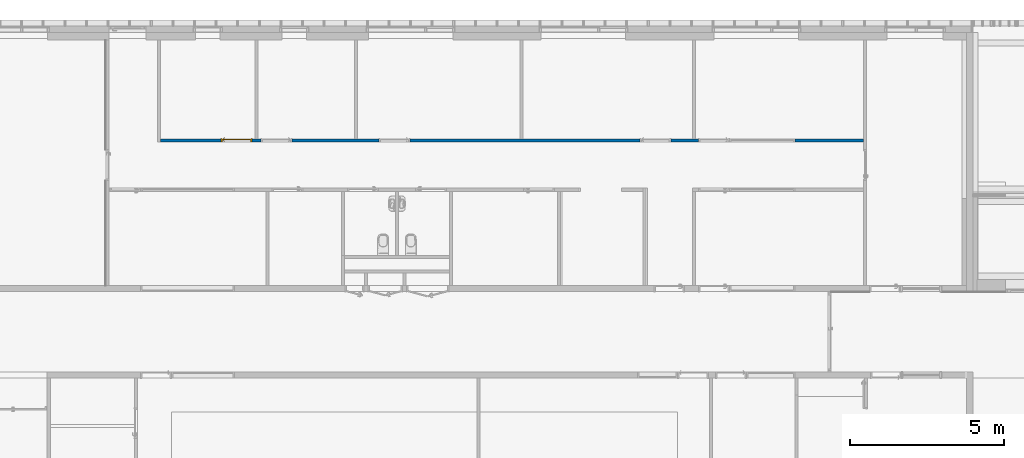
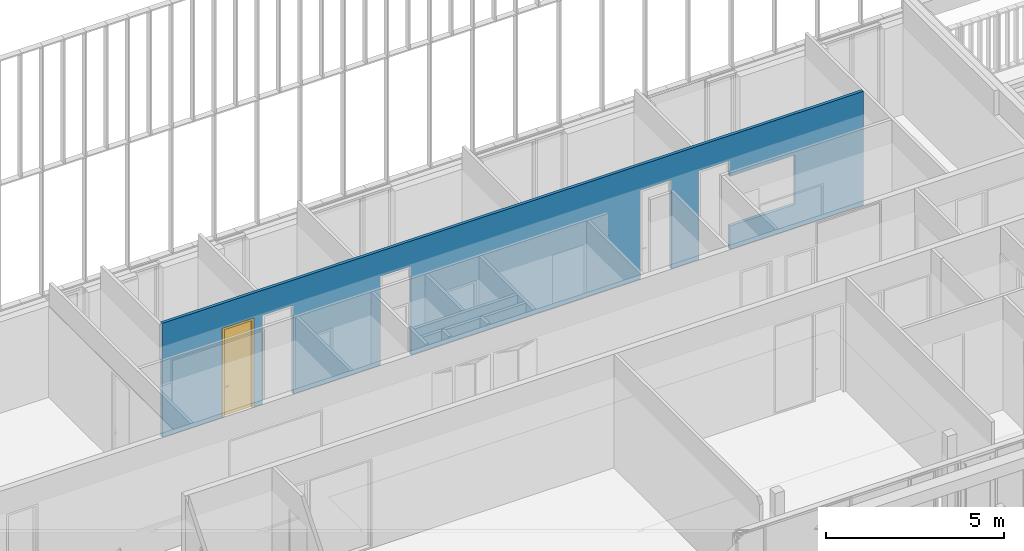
# One storey, part 152 of 240: 1 door, 1 wall, 6 openings.
"""IFC2X3 building model written with IfcOpenShell, lengths in centimetres."""

from ifc_helpers import new_model, entity, si_unit, converted_unit, derived_unit, direction, frame, frame_2d, origin, place, context, subcontext, project, spatial, polyline, rectangle, extrude, clip, bounded_halfspace, faceted_brep, source, transform, mapped, material, material_list, layer, layer_set, layer_usage, type_object, type_shapes, element, fill, save


model = new_model("IFC2X3")

# Units and contexts
model_context = context("Model", 3, precision=0.001, world=origin(), true_north=direction((6.12303176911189e-17, 1.0)))
body_context = subcontext(model_context, "Body", "Model", "MODEL_VIEW")
ifc_project = project(units=[si_unit("LENGTHUNIT", "METRE", prefix="CENTI"), si_unit("AREAUNIT", "SQUARE_METRE"), si_unit("VOLUMEUNIT", "CUBIC_METRE"), converted_unit("PLANEANGLEUNIT", "DEGREE", entity("IfcRatioMeasure", 0.0174532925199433), si_unit("PLANEANGLEUNIT", "RADIAN"), dimensions=[0, 0, 0, 0, 0, 0, 0]), si_unit("MASSUNIT", "GRAM", prefix="KILO"), derived_unit("MASSDENSITYUNIT", [(si_unit("MASSUNIT", "GRAM", prefix="KILO"), 1), (si_unit("LENGTHUNIT", "METRE"), -3)]), si_unit("TIMEUNIT", "SECOND"), si_unit("FREQUENCYUNIT", "HERTZ"), si_unit("THERMODYNAMICTEMPERATUREUNIT", "DEGREE_CELSIUS"), derived_unit("THERMALTRANSMITTANCEUNIT", [(si_unit("MASSUNIT", "GRAM", prefix="KILO"), 1), (si_unit("THERMODYNAMICTEMPERATUREUNIT", "KELVIN"), -1), (si_unit("TIMEUNIT", "SECOND"), -3)]), derived_unit("VOLUMETRICFLOWRATEUNIT", [(si_unit("LENGTHUNIT", "METRE"), 3), (si_unit("TIMEUNIT", "SECOND"), -1)]), si_unit("ELECTRICCURRENTUNIT", "AMPERE"), si_unit("ELECTRICVOLTAGEUNIT", "VOLT"), si_unit("POWERUNIT", "WATT"), si_unit("FORCEUNIT", "NEWTON", prefix="KILO"), si_unit("ILLUMINANCEUNIT", "LUX"), si_unit("LUMINOUSFLUXUNIT", "LUMEN"), si_unit("LUMINOUSINTENSITYUNIT", "CANDELA"), derived_unit("USERDEFINED", [(si_unit("MASSUNIT", "GRAM", prefix="KILO"), -1), (si_unit("LENGTHUNIT", "METRE"), -2), (si_unit("TIMEUNIT", "SECOND"), 3), (si_unit("LUMINOUSFLUXUNIT", "LUMEN"), 1)]), derived_unit("LINEARVELOCITYUNIT", [(si_unit("LENGTHUNIT", "METRE"), 1), (si_unit("TIMEUNIT", "SECOND"), -1)]), si_unit("PRESSUREUNIT", "PASCAL"), derived_unit("USERDEFINED", [(si_unit("LENGTHUNIT", "METRE"), -2), (si_unit("MASSUNIT", "GRAM", prefix="KILO"), 1), (si_unit("TIMEUNIT", "SECOND"), -2)])], contexts=[model_context])

# Site, building, storey
site_placement = place(None, frame((-2781.94577612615, 7442.24238424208, 0.0)))
site = spatial("IfcSite", under=ifc_project, at=site_placement, Name="Default", CompositionType="ELEMENT")
building_placement = place(site_placement, origin())
building = spatial("IfcBuilding", under=site, at=building_placement, CompositionType="ELEMENT")
storey_placement = place(building_placement, origin())
storey = spatial("IfcBuildingStorey", under=building, at=storey_placement, Name="N00 - COO", CompositionType="ELEMENT", Elevation=0.0)

# Wall, openings, door
ifc_material_1 = material(Name="01 - Enduit/Plâtre")
ifc_layer_1 = layer(ifc_material_1, 1.3)
ifc_material_2 = material(Name="00 - Isolant")
ifc_layer_2 = layer(ifc_material_2, 7.4)
ifc_layer_3 = layer(ifc_material_1, 1.3)
ifc_layer_set = layer_set([ifc_layer_1, ifc_layer_2, ifc_layer_3], Name="Mur de base:06 - cloisons - Ba13 10cm")
ifc_layer_usage = layer_usage(ifc_layer_set, "AXIS2", "NEGATIVE", 5.0)
wall_type = type_object("IfcWallType", Name="Mur de base:06 - cloisons - Ba13 10cm", PredefinedType="STANDARD", material=ifc_layer_set)
wall_placement = place(building_placement, frame((-5122.49987760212, -340.0, 0.0), z_axis=(0.0, 0.0, 1.0), x_axis=(-1.0, 0.0, 0.0)))
wall = element("IfcWallStandardCase", 1, at=wall_placement, inside=storey, type_object=wall_type, material=ifc_layer_usage, Name="Mur de base:06 - cloisons - Ba13 10cm", ObjectType="Mur de base:06 - cloisons - Ba13 10cm", context=body_context, shape_type="Clipping", body=[
    clip(extrude(rectangle(XDim=2276.75, YDim=10.0, at=frame_2d((1138.375, -3.5527136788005e-15), x_axis=(-1.0, 0.0))), origin(), (0.0, 0.0, 1.0), 391.0), bounded_halfspace(frame((0.0, -5.0, 391.0), z_axis=(0.0, 0.0, -1.0), x_axis=(0.0, -1.0, 0.0)), True, frame((0.0, -5.0, 391.0)), polyline([(0.0, 0.0), (544.0, 0.0), (554.0, 0.0), (1103.0, 0.0), (1113.0, 0.0), (1639.0, 0.0), (1649.0, 0.0), (1961.0, 0.0), (1971.0, 0.0), (2276.75, 0.0), (2276.75, 10.0), (0.0, 10.0), (0.0, 0.0)]))),
])
opening_1_placement = place(wall_placement, frame((2081.0, 5.0, 0.0)))
opening_1 = element("IfcOpeningElement", 2, at=opening_1_placement, cuts=wall, Name="Int. Simple:PV (0.93m x 3.00m):1", ObjectType="Opening", context=body_context, shape_type="SweptSolid", body=[
    extrude(rectangle(XDim=304.500000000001, YDim=99.9999999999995, at=frame_2d((152.250000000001, 49.9999999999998), x_axis=(1.0, 0.0))), frame((0.0, 0.0, 0.0), z_axis=(0.0, -1.0, 0.0), x_axis=(0.0, 0.0, 1.0)), (0.0, 0.0, 1.0), 10.0),
])
opening_2_placement = place(wall_placement, frame((1951.0, 5.0, 0.0)))
element("IfcOpeningElement", 3, at=opening_2_placement, cuts=wall, Name="Int. Simple:PV (0.93m x 3.00m):1", ObjectType="Opening", context=body_context, shape_type="SweptSolid", body=[
    extrude(rectangle(XDim=304.500000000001, YDim=99.9999999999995, at=frame_2d((152.250000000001, 50.0), x_axis=(1.0, 0.0))), frame((0.0, 0.0, 0.0), z_axis=(0.0, -1.0, 0.0), x_axis=(0.0, 0.0, 1.0)), (0.0, 0.0, 1.0), 10.0),
])
opening_3_placement = place(wall_placement, frame((1569.0, 5.0, 0.0)))
element("IfcOpeningElement", 4, at=opening_3_placement, cuts=wall, Name="Int. Simple:PV (0.93m x 3.00m):1", ObjectType="Opening", context=body_context, shape_type="SweptSolid", body=[
    extrude(rectangle(XDim=304.500000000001, YDim=99.9999999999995, at=frame_2d((152.250000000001, 50.0), x_axis=(1.0, 0.0))), frame((0.0, 0.0, 0.0), z_axis=(0.0, -1.0, 0.0), x_axis=(0.0, 0.0, 1.0)), (0.0, 0.0, 1.0), 10.0),
])
opening_4_placement = place(wall_placement, frame((724.0, 5.0, 0.0)))
element("IfcOpeningElement", 5, at=opening_4_placement, cuts=wall, Name="Int. Simple:PV (0.93m x 3.00m):1", ObjectType="Opening", context=body_context, shape_type="SweptSolid", body=[
    extrude(rectangle(XDim=304.500000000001, YDim=99.9999999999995, at=frame_2d((152.250000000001, 49.9999999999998), x_axis=(1.0, 0.0))), frame((0.0, 0.0, 0.0), z_axis=(0.0, -1.0, 0.0), x_axis=(0.0, 0.0, 1.0)), (0.0, 0.0, 1.0), 10.0),
])
opening_5_placement = place(wall_placement, frame((534.0, 5.0, 0.0)))
element("IfcOpeningElement", 6, at=opening_5_placement, cuts=wall, Name="Int. Simple:PV (0.93m x 3.00m):1", ObjectType="Opening", context=body_context, shape_type="SweptSolid", body=[
    extrude(rectangle(XDim=304.500000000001, YDim=99.9999999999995, at=frame_2d((152.250000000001, 50.0), x_axis=(1.0, 0.0))), frame((0.0, 0.0, 0.0), z_axis=(0.0, -1.0, 0.0), x_axis=(0.0, 0.0, 1.0)), (0.0, 0.0, 1.0), 10.0),
])
opening_6_placement = place(wall_placement, frame((222.0, -5.0, 80.0)))
element("IfcOpeningElement", 7, at=opening_6_placement, cuts=wall, Name="châssis intérieur vitré:châssis intérieur vitré (h=170):1", ObjectType="Opening", context=body_context, shape_type="SweptSolid", body=[
    extrude(rectangle(XDim=170.0, YDim=211.999999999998, at=frame_2d((84.9999999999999, 105.999999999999), x_axis=(1.0, 0.0))), frame((0.0, 0.0, 0.0), z_axis=(0.0, 1.0, 0.0), x_axis=(0.0, 0.0, 1.0)), (0.0, 0.0, 1.0), 10.0),
])
ifc_material_3 = material(Name="Finition Peinture - Blanc satiné")
ifc_material_4 = material(Name="Bois - Panneau de porte")
ifc_material_5 = material(Name="Bois - Cadre de porte")
ifc_material_list_1 = material_list([ifc_material_3, ifc_material_4, ifc_material_5])
ifc_material_list_2 = material_list([ifc_material_3, ifc_material_4, ifc_material_5])
door_style = type_object("IfcDoorStyle", Name="PV (0.93m x 3.00m)", ConstructionType="NOTDEFINED", OperationType="SINGLE_SWING_RIGHT", ParameterTakesPrecedence=False, Sizeable=False, material=ifc_material_list_2)
shared_shape = source(origin(), body_context, "Body", "Brep", [
    faceted_brep([(99.5000000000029, -0.500000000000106, 87.0), (99.5000000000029, -0.500000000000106, 108.0), (98.535276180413, -0.500000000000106, 108.399601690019), (97.5000000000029, -0.500000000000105, 108.535898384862), (96.4647238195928, -0.500000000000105, 108.399601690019), (95.500000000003, -0.500000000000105, 108.0), (95.5000000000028, -0.500000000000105, 87.0), (96.4647238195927, -0.500000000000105, 86.6003983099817), (97.5000000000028, -0.500000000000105, 86.464101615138), (98.5352761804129, -0.500000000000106, 86.6003983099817), (99.5000000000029, 0.0, 108.0), (99.5000000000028, 0.0, 87.0), (98.5352761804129, 0.0, 86.6003983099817), (97.5000000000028, 0.0, 86.464101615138), (96.4647238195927, 0.0, 86.6003983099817), (95.5000000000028, 0.0, 87.0), (95.5000000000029, 0.0, 108.0), (96.4647238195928, 0.0, 108.399601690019), (97.5000000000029, 0.0, 108.535898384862), (98.535276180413, 0.0, 108.399601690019)], [[[0, 1, 2, 3, 4, 5, 6, 7, 8, 9]], [[10, 11, 12, 13, 14, 15, 16, 17, 18, 19]], [[9, 12, 11, 0]], [[8, 13, 12, 9]], [[7, 14, 13, 8]], [[7, 6, 15, 14]], [[15, 6, 5, 16]], [[4, 17, 16, 5]], [[3, 18, 17, 4]], [[2, 19, 18, 3]], [[2, 1, 10, 19]], [[11, 10, 1, 0]]]),
    faceted_brep([(99.5000000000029, 4.0, 87.0), (99.5000000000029, 4.0, 108.0), (98.535276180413, 4.0, 108.399601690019), (97.5000000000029, 4.0, 108.535898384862), (96.4647238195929, 4.0, 108.399601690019), (95.500000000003, 4.0, 108.0), (95.5000000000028, 4.0, 87.0), (96.4647238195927, 4.0, 86.6003983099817), (97.5000000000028, 4.0, 86.464101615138), (98.5352761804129, 4.0, 86.6003983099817), (97.5000000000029, 4.49999999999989, 108.535898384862), (98.535276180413, 4.49999999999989, 108.399601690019), (99.5000000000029, 4.49999999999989, 108.0), (99.5000000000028, 4.49999999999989, 87.0), (98.5352761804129, 4.49999999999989, 86.6003983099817), (97.5000000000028, 4.49999999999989, 86.464101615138), (96.4647238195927, 4.49999999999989, 86.6003983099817), (95.5000000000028, 4.49999999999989, 87.0), (95.500000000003, 4.49999999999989, 108.0), (96.4647238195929, 4.49999999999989, 108.399601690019)], [[[0, 1, 2, 3, 4, 5, 6, 7, 8, 9]], [[10, 11, 12, 13, 14, 15, 16, 17, 18, 19]], [[4, 19, 18, 5]], [[3, 10, 19, 4]], [[2, 11, 10, 3]], [[2, 1, 12, 11]], [[13, 12, 1, 0]], [[9, 14, 13, 0]], [[8, 15, 14, 9]], [[7, 16, 15, 8]], [[7, 6, 17, 16]], [[17, 6, 5, 18]]]),
    faceted_brep([(97.2974701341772, -0.50000000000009, 100.778044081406), (97.7025298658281, -0.500000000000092, 100.778044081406), (98.1000000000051, -0.500000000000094, 100.699999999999), (98.100000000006, -0.500000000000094, 99.2999999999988), (97.7025298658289, -0.500000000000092, 99.221955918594), (97.297470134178, -0.50000000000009, 99.2219559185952), (96.9000000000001, -0.500000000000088, 99.3000000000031), (96.9000000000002, -0.500000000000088, 100.7), (97.7025298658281, -3.10045754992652, 100.778044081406), (98.1000000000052, -3.26509507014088, 100.7), (97.2974701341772, -2.93267631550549, 100.778044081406), (95.9298602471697, -4.30028620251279, 100.778044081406), (96.0976414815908, -4.70534593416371, 100.778044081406), (96.9000000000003, -2.76803879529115, 100.7), (96.9000000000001, -2.76803879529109, 99.3000000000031), (97.297470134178, -2.93267631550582, 99.2219559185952), (97.7025298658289, -3.10045754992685, 99.221955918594), (96.0976414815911, -4.70534593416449, 99.221955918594), (95.9298602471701, -4.30028620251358, 99.2219559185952), (98.100000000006, -3.26509507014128, 99.2999999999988), (96.2622790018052, -5.10281606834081, 100.7), (95.7652227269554, -3.90281606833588, 100.7), (95.7652227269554, -3.90281606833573, 99.3000000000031), (96.2622790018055, -5.10281606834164, 99.2999999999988), (87.4981359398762, -5.10281606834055, 100.7), (87.4981359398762, -4.70534593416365, 100.778044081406), (87.4981359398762, -4.30028620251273, 100.778044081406), (87.4981359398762, -3.90281606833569, 100.699999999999), (87.4981359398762, -3.90281606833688, 99.3000000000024), (87.4981359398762, -4.30028620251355, 99.2219559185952), (87.4981359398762, -4.70534593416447, 99.221955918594), (87.4981359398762, -5.10281606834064, 99.2999999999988), (91.7139980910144, -4.5028160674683, 100.78786867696), (92.2692302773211, -5.1028160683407, 100.7), (91.6316793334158, -3.9028160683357, 100.7), (91.631679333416, -3.9028160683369, 99.3000000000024), (91.7139981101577, -4.50281607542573, 99.2121313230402), (92.2692310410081, -5.10281606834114, 99.2999999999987)], [[[0, 1, 2, 3, 4, 5, 6, 7]], [[2, 1, 8, 9]], [[1, 0, 10, 11, 12, 8]], [[0, 7, 13, 10]], [[14, 13, 7, 6]], [[5, 15, 14, 6]], [[5, 4, 16, 17, 18, 15]], [[3, 19, 16, 4]], [[9, 19, 3, 2]], [[9, 8, 12, 20]], [[10, 13, 21, 11]], [[22, 21, 13, 14]], [[14, 15, 18, 22]], [[16, 19, 23, 17]], [[20, 23, 19, 9]], [[24, 25, 26, 27, 28, 29, 30, 31]], [[32, 25, 33]], [[33, 25, 24]], [[33, 20, 12]], [[11, 34, 32]], [[34, 11, 21]], [[27, 26, 34]], [[32, 26, 25]], [[32, 34, 26]], [[32, 33, 12]], [[11, 32, 12]], [[21, 22, 35, 28, 27, 34]], [[36, 29, 35]], [[30, 36, 37]], [[18, 35, 22]], [[29, 28, 35]], [[30, 37, 31]], [[37, 17, 23]], [[36, 17, 37]], [[36, 18, 17]], [[36, 35, 18]], [[29, 36, 30]], [[23, 20, 33, 24, 31, 37]]]),
    faceted_brep([(97.2974701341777, 4.49999999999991, 99.2219559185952), (97.7025298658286, 4.49999999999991, 99.221955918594), (98.1000000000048, 4.4999999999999, 99.2999999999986), (98.1000000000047, 4.4999999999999, 100.7), (97.7025298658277, 4.49999999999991, 100.778044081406), (97.2974701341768, 4.49999999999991, 100.778044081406), (96.8999999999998, 4.49999999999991, 100.7), (96.900000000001, 4.49999999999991, 99.3000000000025), (96.8999999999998, 6.7485204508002, 100.7), (96.8999999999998, 6.74852045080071, 99.3000000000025), (97.2974701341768, 6.91315797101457, 100.778044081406), (97.7025298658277, 7.0809392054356, 100.778044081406), (96.0838906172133, 8.69957845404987, 100.778044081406), (95.9161093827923, 8.29451872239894, 100.778044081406), (98.1000000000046, 7.24557672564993, 100.7), (98.1000000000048, 7.24557672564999, 99.2999999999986), (97.7025298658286, 7.08093920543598, 99.221955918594), (97.2974701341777, 6.91315797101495, 99.2219559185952), (95.9161093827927, 8.29451872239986, 99.2219559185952), (96.0838906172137, 8.69957845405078, 99.221955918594), (95.751471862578, 7.89704858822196, 100.7), (95.7514718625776, 7.89704858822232, 99.3000000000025), (96.2485281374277, 9.09704858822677, 100.7), (96.2485281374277, 9.09704858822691, 99.2999999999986), (87.4954216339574, 8.29451872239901, 100.778044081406), (87.4954216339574, 8.69957845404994, 100.778044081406), (87.4954216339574, 9.09704858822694, 100.7), (87.4954216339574, 9.09704858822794, 99.2999999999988), (87.4954216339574, 8.6995784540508, 99.221955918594), (87.4954216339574, 8.29451872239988, 99.2219559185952), (87.4954216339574, 7.89704858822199, 99.3000000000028), (87.4954216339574, 7.89704858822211, 100.7), (91.6234467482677, 7.89704858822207, 100.7), (91.6234479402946, 7.89704858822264, 99.3000000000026), (91.7057655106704, 8.49704858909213, 100.78786867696), (92.255479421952, 9.09704858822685, 100.7), (92.2554795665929, 9.09704858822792, 99.2999999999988), (91.7057654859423, 8.49704858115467, 99.2121313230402)], [[[0, 1, 2, 3, 4, 5, 6, 7]], [[8, 9, 7, 6]], [[5, 10, 8, 6]], [[5, 4, 11, 12, 13, 10]], [[3, 14, 11, 4]], [[14, 3, 2, 15]], [[2, 1, 16, 15]], [[1, 0, 17, 18, 19, 16]], [[0, 7, 9, 17]], [[20, 21, 9, 8]], [[8, 10, 13, 20]], [[14, 22, 12, 11]], [[23, 22, 14, 15]], [[15, 16, 19, 23]], [[17, 9, 21, 18]], [[24, 25, 26, 27, 28, 29, 30, 31]], [[21, 20, 32, 31, 30, 33]], [[34, 24, 32]], [[25, 34, 35]], [[13, 32, 20]], [[24, 31, 32]], [[25, 35, 26]], [[35, 12, 22]], [[34, 12, 35]], [[34, 13, 12]], [[34, 32, 13]], [[24, 34, 25]], [[22, 23, 36, 27, 26, 35]], [[37, 28, 36]], [[36, 28, 27]], [[36, 23, 19]], [[18, 33, 37]], [[33, 18, 21]], [[30, 29, 33]], [[37, 29, 28]], [[37, 33, 29]], [[37, 36, 19]], [[18, 37, 19]]]),
    faceted_brep([(103.500000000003, 4.0, 301.0), (103.500000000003, 4.0, 0.0), (10.5000000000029, 4.0, 0.0), (10.5000000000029, 4.0, 301.0), (103.500000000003, 0.0, 301.0), (10.5000000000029, 0.0, 301.0), (10.5000000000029, 0.0, 0.0), (103.500000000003, 0.0, 0.0)], [[[0, 1, 2, 3]], [[4, 5, 6, 7]], [[3, 5, 4, 0]], [[2, 6, 5, 3]], [[1, 7, 6, 2]], [[0, 4, 7, 1]]]),
    faceted_brep([(107.0, 10.0, 0.0), (107.0, 0.0, 0.0), (108.500000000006, 0.0, 0.0), (108.500000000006, -0.500000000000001, 0.0), (103.500000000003, -0.500000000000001, 0.0), (103.500000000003, 4.0, 0.0), (102.0, 4.0, 0.0), (102.0, 10.5000000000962, 0.0), (108.500000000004, 10.5000000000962, 0.0), (108.500000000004, 10.0, 0.0), (108.500000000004, 10.0, 306.0), (5.50000000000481, 10.0, 306.0), (5.50000000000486, 10.0, 0.0), (7.0, 10.0, 0.0), (7.0, 10.0, 304.500000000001), (107.0, 10.0, 304.500000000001), (108.500000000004, 10.5000000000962, 306.0), (102.0, 10.5000000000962, 299.5), (12.0, 10.5000000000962, 299.5), (12.0, 10.5000000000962, 0.0), (5.50000000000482, 10.5000000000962, 0.0), (5.50000000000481, 10.5000000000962, 306.0), (102.0, 4.0, 299.5), (103.500000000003, 4.0, 301.0), (10.5000000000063, 4.0, 301.0), (10.5000000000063, 4.0, 0.0), (12.0, 4.0, 0.0), (12.0, 4.0, 299.5), (103.500000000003, -0.500000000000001, 301.0), (108.500000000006, -0.500000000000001, 306.0), (5.5000000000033, -0.500000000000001, 306.0), (5.50000000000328, -0.500000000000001, 0.0), (10.5000000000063, -0.500000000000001, 0.0), (10.5000000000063, -0.500000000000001, 301.0), (108.500000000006, 0.0, 306.0), (107.0, 0.0, 304.500000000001), (7.0, 0.0, 304.500000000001), (7.0, 0.0, 0.0), (5.5000000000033, 0.0, 0.0), (5.50000000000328, 0.0, 306.0)], [[[0, 1, 2, 3, 4, 5, 6, 7, 8, 9]], [[9, 10, 11, 12, 13, 14, 15, 0]], [[8, 16, 10, 9]], [[7, 17, 18, 19, 20, 21, 16, 8]], [[7, 6, 22, 17]], [[5, 23, 24, 25, 26, 27, 22, 6]], [[5, 4, 28, 23]], [[3, 29, 30, 31, 32, 33, 28, 4]], [[2, 34, 29, 3]], [[1, 35, 36, 37, 38, 39, 34, 2]], [[0, 15, 35, 1]], [[14, 13, 37, 36]], [[13, 12, 20, 19, 26, 25, 32, 31, 38, 37]], [[21, 20, 12, 11]], [[27, 26, 19, 18]], [[33, 32, 25, 24]], [[39, 38, 31, 30]], [[15, 14, 36, 35]], [[16, 21, 11, 10]], [[22, 27, 18, 17]], [[28, 33, 24, 23]], [[34, 39, 30, 29]]]),
])
type_shapes(door_style, [shared_shape])
door_placement = place(opening_1_placement, frame((-107.0, -10.0, 0.0)))
door = element("IfcDoor", 8, at=door_placement, inside=storey, type_object=door_style, material=ifc_material_list_1, Name="Int. Simple:PV (0.93m x 3.00m)", ObjectType="Int. Simple:PV (0.93m x 3.00m)", OverallHeight=304.500000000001, OverallWidth=99.9999999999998, context=body_context, shape_type="MappedRepresentation", body=[
    mapped(shared_shape, transform((0.0, 0.0, 0.0), scale=1.0)),
])
fill(opening_1, door)

save(model, "model.ifc")
